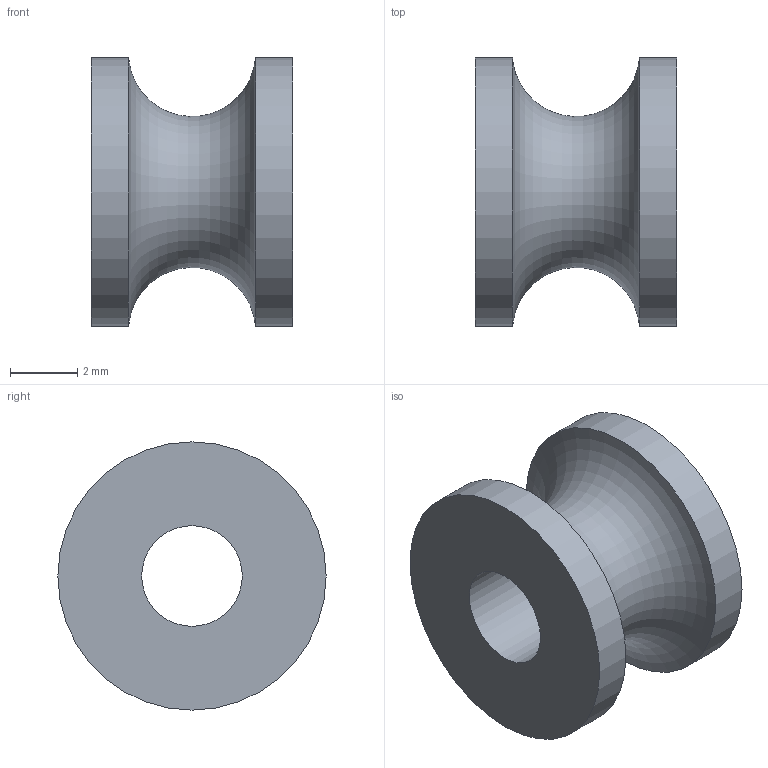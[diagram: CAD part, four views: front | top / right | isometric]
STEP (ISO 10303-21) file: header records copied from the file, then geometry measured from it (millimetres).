
FILE_DESCRIPTION(/* description */ (''),/* implementation_level */ '2;1');
FILE_NAME(/* name */ 'C:\Users\Owner\Documents\硯聰\Inv材料庫-3D新型錄\拉門配件\拉門滑輪.stp',/* time_stamp */ '2019-03-11T11:24:20+08:00',/* author */ ('Owner'),/* organization */ (''),/* preprocessor_version */ 'ST-DEVELOPER v16.1',/* originating_system */ 'Autodesk Inventor 2016',/* authorisation */ '');
FILE_SCHEMA (('AUTOMOTIVE_DESIGN { 1 0 10303 214 3 1 1 }'));
Length unit declared in the file: millimetre
Products named in the file (1): 零件68
Bounding box: 6 x 8 x 8 mm (x, y, z)
Volume: 154.6 mm3; surface area: 301.1 mm2
Topology: 1 solids, 1 shells, 6 faces, 11 edges, 7 vertices
Faces by surface type: cylinder 3, plane 2, torus 1
Full cylindrical faces by diameter (mm): 3 x1, 8 x2
Entity records: 152 total; most frequent: DIRECTION 26, CARTESIAN_POINT 19, AXIS2_PLACEMENT_3D 13, EDGE_LOOP 12, ORIENTED_EDGE 12, FACE_BOUND 6, FACE_OUTER_BOUND 6, CIRCLE 6
